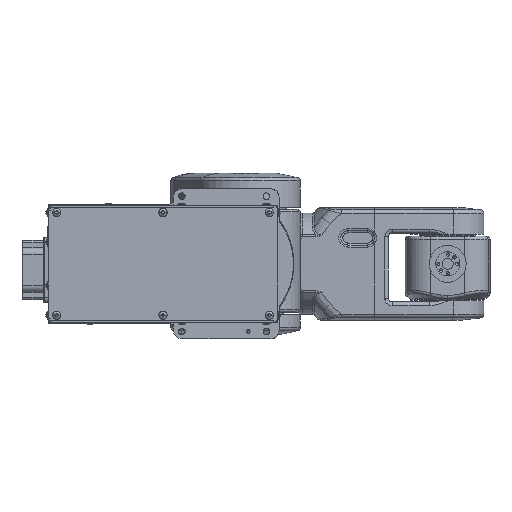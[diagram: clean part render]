
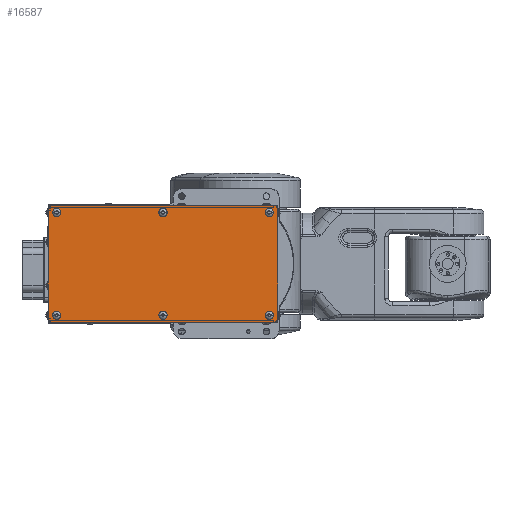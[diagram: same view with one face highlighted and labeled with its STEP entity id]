
A CAD part, front view. The second image highlights one B-rep face of the part: STEP entity #16587.
In plain terms, the highlighted planar face has unit normal (0, -1, 0).
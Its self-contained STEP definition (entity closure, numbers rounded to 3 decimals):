
#1=DIRECTION('',(0.707,0.,-0.707));
#2=VECTOR('',#1,1.414);
#3=CARTESIAN_POINT('',(-94.,0.,-47.5));
#4=LINE('',#3,#2);
#5=DIRECTION('',(1.,0.,0.));
#6=VECTOR('',#5,1.);
#7=CARTESIAN_POINT('',(-95.,0.,-47.5));
#8=LINE('',#7,#6);
#9=DIRECTION('',(0.,0.,1.));
#10=VECTOR('',#9,95.);
#11=CARTESIAN_POINT('',(-95.,0.,-47.5));
#12=LINE('',#11,#10);
#13=DIRECTION('',(-1.,0.,0.));
#14=VECTOR('',#13,1.);
#15=CARTESIAN_POINT('',(-94.,0.,47.5));
#16=LINE('',#15,#14);
#17=DIRECTION('',(-0.707,0.,-0.707));
#18=VECTOR('',#17,1.414);
#19=CARTESIAN_POINT('',(-93.,0.,48.5));
#20=LINE('',#19,#18);
#21=DIRECTION('',(1.,0.,0.));
#22=VECTOR('',#21,186.);
#23=CARTESIAN_POINT('',(-93.,0.,48.5));
#24=LINE('',#23,#22);
#25=DIRECTION('',(-0.707,0.,0.707));
#26=VECTOR('',#25,1.414);
#27=CARTESIAN_POINT('',(94.,0.,47.5));
#28=LINE('',#27,#26);
#29=DIRECTION('',(-1.,0.,0.));
#30=VECTOR('',#29,1.);
#31=CARTESIAN_POINT('',(95.,0.,47.5));
#32=LINE('',#31,#30);
#33=DIRECTION('',(-1.,0.,0.));
#34=VECTOR('',#33,1.);
#35=CARTESIAN_POINT('',(95.,0.,-47.5));
#36=LINE('',#35,#34);
#37=DIRECTION('',(0.707,0.,0.707));
#38=VECTOR('',#37,1.414);
#39=CARTESIAN_POINT('',(93.,0.,-48.5));
#40=LINE('',#39,#38);
#41=DIRECTION('',(-1.,0.,0.));
#42=VECTOR('',#41,186.);
#43=CARTESIAN_POINT('',(93.,0.,-48.5));
#44=LINE('',#43,#42);
#45=CARTESIAN_POINT('',(88.,0.,-42.5));
#46=DIRECTION('',(0.,1.,0.));
#47=DIRECTION('',(-1.,0.,0.));
#48=AXIS2_PLACEMENT_3D('',#45,#46,#47);
#50=CARTESIAN_POINT('',(88.,0.,-42.5));
#51=DIRECTION('',(0.,1.,0.));
#52=DIRECTION('',(1.,0.,0.));
#53=AXIS2_PLACEMENT_3D('',#50,#51,#52);
#55=CARTESIAN_POINT('',(88.,0.,42.5));
#56=DIRECTION('',(0.,1.,0.));
#57=DIRECTION('',(-1.,0.,0.));
#58=AXIS2_PLACEMENT_3D('',#55,#56,#57);
#60=CARTESIAN_POINT('',(88.,0.,42.5));
#61=DIRECTION('',(0.,1.,0.));
#62=DIRECTION('',(1.,0.,0.));
#63=AXIS2_PLACEMENT_3D('',#60,#61,#62);
#65=CARTESIAN_POINT('',(0.,0.,-42.5));
#66=DIRECTION('',(0.,1.,0.));
#67=DIRECTION('',(-1.,0.,0.));
#68=AXIS2_PLACEMENT_3D('',#65,#66,#67);
#70=CARTESIAN_POINT('',(0.,0.,-42.5));
#71=DIRECTION('',(0.,1.,0.));
#72=DIRECTION('',(1.,0.,0.));
#73=AXIS2_PLACEMENT_3D('',#70,#71,#72);
#75=CARTESIAN_POINT('',(0.,0.,42.5));
#76=DIRECTION('',(0.,1.,0.));
#77=DIRECTION('',(-1.,0.,0.));
#78=AXIS2_PLACEMENT_3D('',#75,#76,#77);
#80=CARTESIAN_POINT('',(0.,0.,42.5));
#81=DIRECTION('',(0.,1.,0.));
#82=DIRECTION('',(1.,0.,0.));
#83=AXIS2_PLACEMENT_3D('',#80,#81,#82);
#85=CARTESIAN_POINT('',(-88.,0.,-42.5));
#86=DIRECTION('',(0.,1.,0.));
#87=DIRECTION('',(-1.,0.,0.));
#88=AXIS2_PLACEMENT_3D('',#85,#86,#87);
#90=CARTESIAN_POINT('',(-88.,0.,-42.5));
#91=DIRECTION('',(0.,1.,0.));
#92=DIRECTION('',(1.,0.,0.));
#93=AXIS2_PLACEMENT_3D('',#90,#91,#92);
#95=CARTESIAN_POINT('',(-88.,0.,42.5));
#96=DIRECTION('',(0.,1.,0.));
#97=DIRECTION('',(-1.,0.,0.));
#98=AXIS2_PLACEMENT_3D('',#95,#96,#97);
#100=CARTESIAN_POINT('',(-88.,0.,42.5));
#101=DIRECTION('',(0.,1.,0.));
#102=DIRECTION('',(1.,0.,0.));
#103=AXIS2_PLACEMENT_3D('',#100,#101,#102);
#2635=DIRECTION('',(0.,0.,-1.));
#2636=VECTOR('',#2635,95.);
#2637=CARTESIAN_POINT('',(95.,0.,47.5));
#2638=LINE('',#2637,#2636);
#13714=CARTESIAN_POINT('',(93.,0.,48.5));
#13716=VERTEX_POINT('',#13714);
#13718=CARTESIAN_POINT('',(93.,0.,-48.5));
#13720=VERTEX_POINT('',#13718);
#13722=CARTESIAN_POINT('',(-93.,0.,-48.5));
#13724=VERTEX_POINT('',#13722);
#13726=CARTESIAN_POINT('',(-93.,0.,48.5));
#13728=VERTEX_POINT('',#13726);
#13833=CARTESIAN_POINT('',(84.55,0.,-42.5));
#13834=CARTESIAN_POINT('',(91.45,0.,-42.5));
#13835=VERTEX_POINT('',#13833);
#13836=VERTEX_POINT('',#13834);
#13905=CARTESIAN_POINT('',(84.55,0.,42.5));
#13906=CARTESIAN_POINT('',(91.45,0.,42.5));
#13907=VERTEX_POINT('',#13905);
#13908=VERTEX_POINT('',#13906);
#13977=CARTESIAN_POINT('',(-3.45,0.,-42.5));
#13978=CARTESIAN_POINT('',(3.45,0.,-42.5));
#13979=VERTEX_POINT('',#13977);
#13980=VERTEX_POINT('',#13978);
#14049=CARTESIAN_POINT('',(-3.45,0.,42.5));
#14050=CARTESIAN_POINT('',(3.45,0.,42.5));
#14051=VERTEX_POINT('',#14049);
#14052=VERTEX_POINT('',#14050);
#14121=CARTESIAN_POINT('',(-91.45,0.,-42.5));
#14122=CARTESIAN_POINT('',(-84.55,0.,-42.5));
#14123=VERTEX_POINT('',#14121);
#14124=VERTEX_POINT('',#14122);
#14193=CARTESIAN_POINT('',(-91.45,0.,42.5));
#14194=CARTESIAN_POINT('',(-84.55,0.,42.5));
#14195=VERTEX_POINT('',#14193);
#14196=VERTEX_POINT('',#14194);
#14201=CARTESIAN_POINT('',(95.,0.,47.5));
#14202=VERTEX_POINT('',#14201);
#14203=CARTESIAN_POINT('',(95.,0.,-47.5));
#14205=VERTEX_POINT('',#14203);
#14233=CARTESIAN_POINT('',(94.,0.,47.5));
#14234=VERTEX_POINT('',#14233);
#14235=CARTESIAN_POINT('',(94.,0.,-47.5));
#14236=VERTEX_POINT('',#14235);
#14537=CARTESIAN_POINT('',(-95.,0.,-47.5));
#14538=VERTEX_POINT('',#14537);
#14539=CARTESIAN_POINT('',(-95.,0.,47.5));
#14541=VERTEX_POINT('',#14539);
#14553=CARTESIAN_POINT('',(-94.,0.,-47.5));
#14554=VERTEX_POINT('',#14553);
#14555=CARTESIAN_POINT('',(-94.,0.,47.5));
#14556=VERTEX_POINT('',#14555);
#16520=CARTESIAN_POINT('',(0.,0.,0.));
#16521=DIRECTION('',(0.,1.,0.));
#16522=DIRECTION('',(1.,0.,0.));
#16523=AXIS2_PLACEMENT_3D('',#16520,#16521,#16522);
#16524=PLANE('',#16523);
#16526=ORIENTED_EDGE('',*,*,#16525,.F.);
#16528=ORIENTED_EDGE('',*,*,#16527,.F.);
#16530=ORIENTED_EDGE('',*,*,#16529,.T.);
#16532=ORIENTED_EDGE('',*,*,#16531,.F.);
#16534=ORIENTED_EDGE('',*,*,#16533,.F.);
#16536=ORIENTED_EDGE('',*,*,#16535,.T.);
#16538=ORIENTED_EDGE('',*,*,#16537,.F.);
#16540=ORIENTED_EDGE('',*,*,#16539,.F.);
#16542=ORIENTED_EDGE('',*,*,#16541,.T.);
#16544=ORIENTED_EDGE('',*,*,#16543,.T.);
#16546=ORIENTED_EDGE('',*,*,#16545,.F.);
#16548=ORIENTED_EDGE('',*,*,#16547,.T.);
#16549=EDGE_LOOP('',(#16526,#16528,#16530,#16532,#16534,#16536,#16538,#16540,
#16542,#16544,#16546,#16548));
#16550=FACE_OUTER_BOUND('',#16549,.F.);
#16552=ORIENTED_EDGE('',*,*,#16551,.F.);
#16554=ORIENTED_EDGE('',*,*,#16553,.F.);
#16555=EDGE_LOOP('',(#16552,#16554));
#16556=FACE_BOUND('',#16555,.F.);
#16558=ORIENTED_EDGE('',*,*,#16557,.F.);
#16560=ORIENTED_EDGE('',*,*,#16559,.F.);
#16561=EDGE_LOOP('',(#16558,#16560));
#16562=FACE_BOUND('',#16561,.F.);
#16564=ORIENTED_EDGE('',*,*,#16563,.F.);
#16566=ORIENTED_EDGE('',*,*,#16565,.F.);
#16567=EDGE_LOOP('',(#16564,#16566));
#16568=FACE_BOUND('',#16567,.F.);
#16570=ORIENTED_EDGE('',*,*,#16569,.F.);
#16572=ORIENTED_EDGE('',*,*,#16571,.F.);
#16573=EDGE_LOOP('',(#16570,#16572));
#16574=FACE_BOUND('',#16573,.F.);
#16576=ORIENTED_EDGE('',*,*,#16575,.F.);
#16578=ORIENTED_EDGE('',*,*,#16577,.F.);
#16579=EDGE_LOOP('',(#16576,#16578));
#16580=FACE_BOUND('',#16579,.F.);
#16582=ORIENTED_EDGE('',*,*,#16581,.F.);
#16584=ORIENTED_EDGE('',*,*,#16583,.F.);
#16585=EDGE_LOOP('',(#16582,#16584));
#16586=FACE_BOUND('',#16585,.F.);
#16587=ADVANCED_FACE('',(#16550,#16556,#16562,#16568,#16574,#16580,#16586),
#16524,.F.);
#49=CIRCLE('',#48,3.45);
#54=CIRCLE('',#53,3.45);
#59=CIRCLE('',#58,3.45);
#64=CIRCLE('',#63,3.45);
#69=CIRCLE('',#68,3.45);
#74=CIRCLE('',#73,3.45);
#79=CIRCLE('',#78,3.45);
#84=CIRCLE('',#83,3.45);
#89=CIRCLE('',#88,3.45);
#94=CIRCLE('',#93,3.45);
#99=CIRCLE('',#98,3.45);
#104=CIRCLE('',#103,3.45);
#16525=EDGE_CURVE('',#14554,#13724,#4,.T.);
#16527=EDGE_CURVE('',#14538,#14554,#8,.T.);
#16529=EDGE_CURVE('',#14538,#14541,#12,.T.);
#16531=EDGE_CURVE('',#14556,#14541,#16,.T.);
#16533=EDGE_CURVE('',#13728,#14556,#20,.T.);
#16535=EDGE_CURVE('',#13728,#13716,#24,.T.);
#16537=EDGE_CURVE('',#14234,#13716,#28,.T.);
#16539=EDGE_CURVE('',#14202,#14234,#32,.T.);
#16541=EDGE_CURVE('',#14202,#14205,#2638,.T.);
#16543=EDGE_CURVE('',#14205,#14236,#36,.T.);
#16545=EDGE_CURVE('',#13720,#14236,#40,.T.);
#16547=EDGE_CURVE('',#13720,#13724,#44,.T.);
#16551=EDGE_CURVE('',#13835,#13836,#49,.T.);
#16553=EDGE_CURVE('',#13836,#13835,#54,.T.);
#16557=EDGE_CURVE('',#13907,#13908,#59,.T.);
#16559=EDGE_CURVE('',#13908,#13907,#64,.T.);
#16563=EDGE_CURVE('',#13979,#13980,#69,.T.);
#16565=EDGE_CURVE('',#13980,#13979,#74,.T.);
#16569=EDGE_CURVE('',#14051,#14052,#79,.T.);
#16571=EDGE_CURVE('',#14052,#14051,#84,.T.);
#16575=EDGE_CURVE('',#14123,#14124,#89,.T.);
#16577=EDGE_CURVE('',#14124,#14123,#94,.T.);
#16581=EDGE_CURVE('',#14195,#14196,#99,.T.);
#16583=EDGE_CURVE('',#14196,#14195,#104,.T.);
